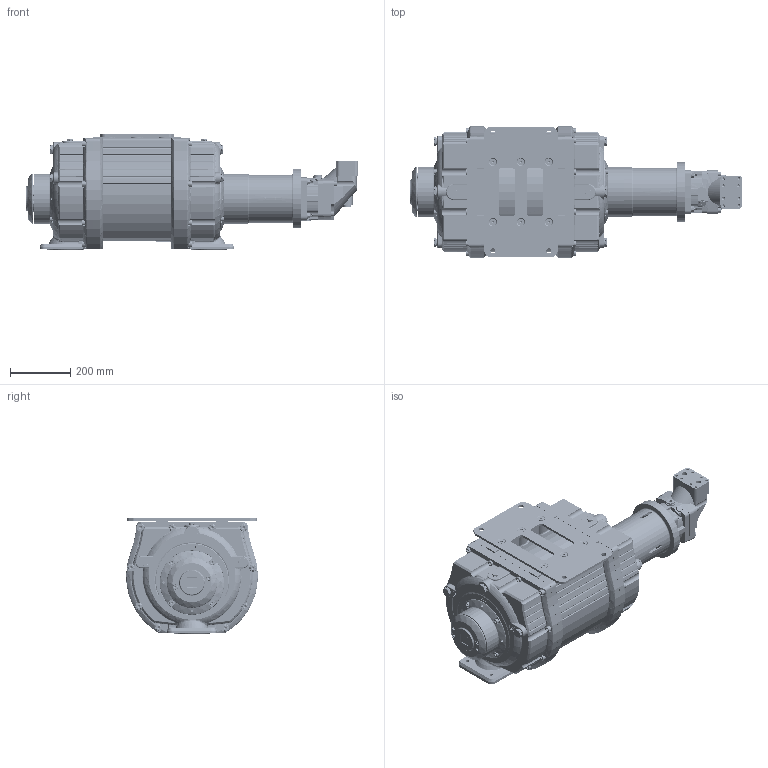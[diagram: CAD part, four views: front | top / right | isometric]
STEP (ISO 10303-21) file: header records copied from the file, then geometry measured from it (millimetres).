
FILE_DESCRIPTION(/* description */ (''),/* implementation_level */ '2;1');
FILE_NAME(/* name */ '1700150.stp',/* time_stamp */ '2025-05-07T10:06:45+02:00',/* author */ ('JJ'),/* organization */ (''),/* preprocessor_version */ 'ST-DEVELOPER v20',/* originating_system */ 'Autodesk Inventor 2025',/* authorisation */ '');
FILE_SCHEMA (('AUTOMOTIVE_DESIGN { 1 0 10303 214 3 1 1 }'));
Products named in the file (14): 1700150; 932400133; 932400134; 922200272; 1657041; 1700040 Ready for adaptor; 944000087; 944000087_part1; 944000087_part2; 944000087_part3; 1657044; 910100194; 910100170; 910200008
Assembly tree (35 placements, depth 3):
  1700150
    932400133  x2
    932400134
    922200272
    1657041
    910100194  x8
    910100170  x8
    910200008  x8
    1700040 Ready for adaptor
    944000087
      944000087_part1
      944000087_part2
      944000087_part3
    1657044
Bounding box: 1103.7 x 437.65 x 384.46 mm (x, y, z)
Volume: 74319448.6 mm3; surface area: 2394728.2 mm2
Topology: 34 solids, 35 shells, 4332 faces, 11097 edges, 7052 vertices
Faces by surface type: plane 1575, cylinder 1269, bspline 675, torus 481, cone 259, sphere 73
Full cylindrical faces by diameter (mm): 3.3 x4, 3.5 x2, 6 x8, 8 x2, 8.376 x25, 10 x254, 10.106 x13, 10.5 x8, 10.7 x12, 12 x17, 16 x16, 17 x10, 18 x24, 19.05 x2, 20 x9, 20.57 x2, 23.12 x6, 24 x20, 25 x20, 26 x4, 27 x2, 28.58 x4, 31.8 x2, 32 x1, 34.93 x2, 35 x2, 38 x2, 40 x3, 45.5 x1, 46 x1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
Entity records: 147327 total; most frequent: CARTESIAN_POINT 54691, ORIENTED_EDGE 19242, DIRECTION 17513, EDGE_CURVE 9621, AXIS2_PLACEMENT_3D 6611, VERTEX_POINT 6138, LINE 4291, VECTOR 4291
